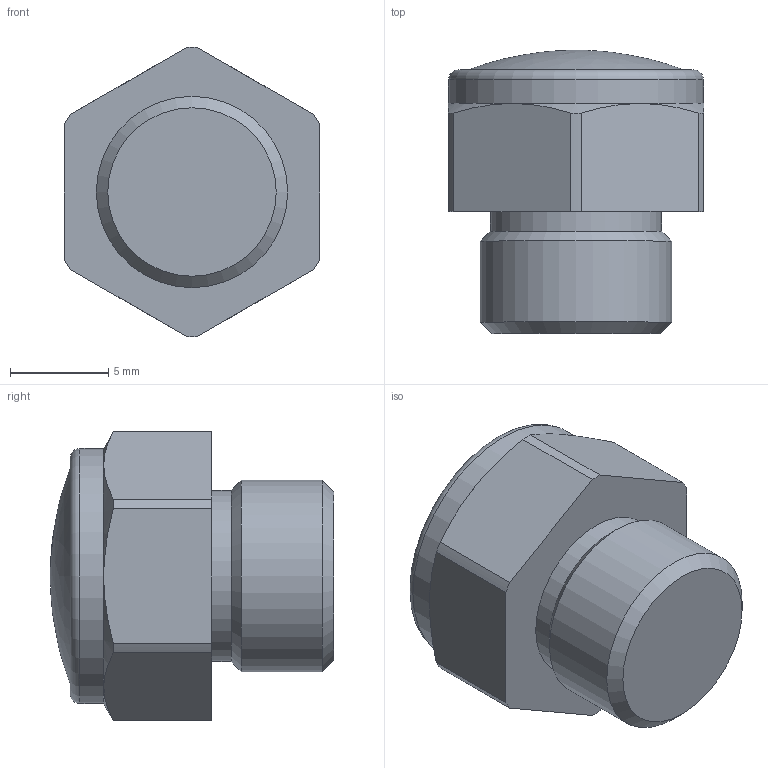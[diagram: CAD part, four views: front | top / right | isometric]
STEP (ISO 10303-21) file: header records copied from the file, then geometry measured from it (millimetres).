
FILE_DESCRIPTION( ( 'STEP AP214' ), '1' );
FILE_NAME( 'p:/temp/worker_3/temp/exporttempdir_5516_997_Vs807/format_0/W0970530052.stp', '2021-12-09T08:46:25', ( 'License CC BY-ND 4.0' ), ( 'CADENAS' ), ' ', 'PARTsolutions', ' ' );
FILE_SCHEMA( ( 'AUTOMOTIVE_DESIGN { 1 0 10303 214 1 1 1 1 }' ) );
Length unit declared in the file: millimetre
Products named in the file (1): _W0970530052
Bounding box: 13 x 14.4 x 14.7 mm (x, y, z)
Volume: 1509.6 mm3; surface area: 790 mm2
Topology: 1 solids, 1 shells, 24 faces, 56 edges, 36 vertices
Faces by surface type: plane 10, cylinder 9, cone 3, bspline 1, torus 1
Full cylindrical faces by diameter (mm): 8.7 x1, 9.728 x1, 12.968 x1
Entity records: 909 total; most frequent: CARTESIAN_POINT 187, DIRECTION 110, ORIENTED_EDGE 92, AXIS2_PLACEMENT_3D 46, EDGE_CURVE 46, VERTEX_POINT 35, EDGE_LOOP 34, FACE_OUTER_BOUND 28
